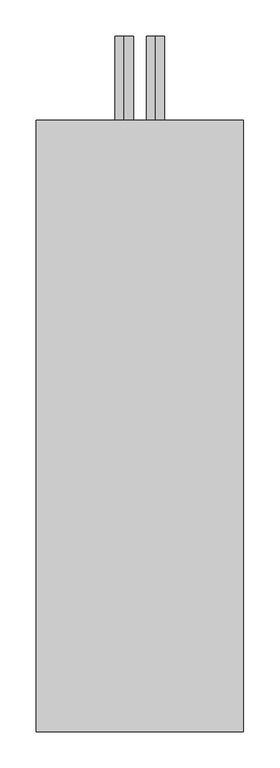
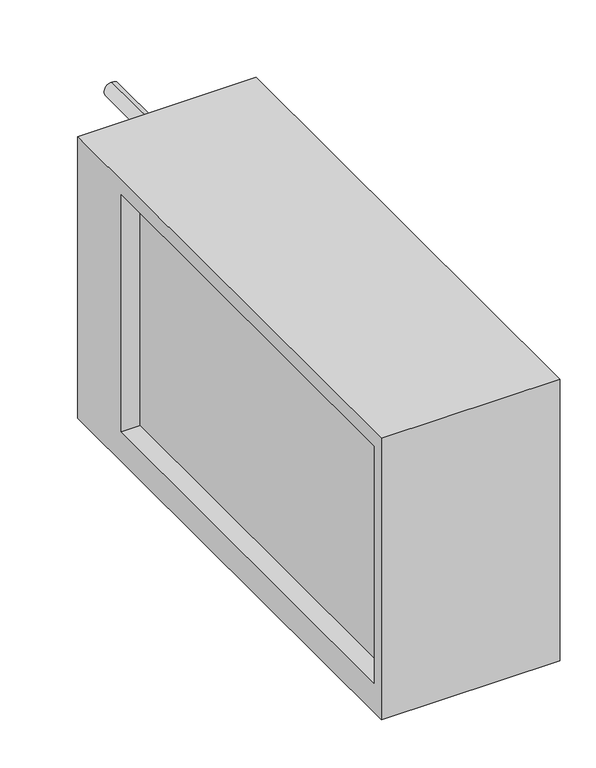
"""IFC4 building model written with IfcOpenShell, lengths in millimetres: proxy geometry, СВ_ВоздухоохладительВодяной_КанальныйПрямоугольный_200-1000_SPC-W : SPC-W-700x400-L."""

import ifcopenshell
import ifcopenshell.guid

model = None  # the IFC model being written
_history = None  # IfcOwnerHistory: only IFC2X3 demands one
_inside = {}  # id of a spatial element -> (the spatial element, [elements in it])
_under = {}  # id of a project, library or spatial element -> (it, [spatial elements below it])
_declared = {}  # id of a project -> (the project, [libraries it declares])
_typed = {}  # id of a type object -> (the type object, [elements of that type])
_made_of = {}  # id of a material, layer set ... -> (it, [elements and type objects made of it])


def new_model(schema):
    """Start an empty IFC model of exactly this schema.

    Asked for "IFC4X3", IfcOpenShell would pick the latest addendum, in which some entities
    have other attributes; the version numbers below select the first issue.
    IFC2X3 requires an IfcOwnerHistory on every rooted entity: one is made here for all.
    """
    global model, _history
    if schema == "IFC4X3":
        model = ifcopenshell.file(schema_version=(4, 3, 0, 0))
    else:
        model = ifcopenshell.file(schema=schema)
    _inside.clear()
    _under.clear()
    _declared.clear()
    _typed.clear()
    _made_of.clear()
    _history = None
    if model.schema == "IFC2X3":
        org = make("IfcOrganization", Name="unknown")
        user = make(
            "IfcPersonAndOrganization",
            ThePerson=make("IfcPerson", FamilyName="unknown"),
            TheOrganization=org,
        )
        app = make(
            "IfcApplication",
            ApplicationDeveloper=org,
            Version="unknown",
            ApplicationFullName="unknown",
            ApplicationIdentifier="unknown",
        )
        _history = make(
            "IfcOwnerHistory",
            OwningUser=user,
            OwningApplication=app,
            ChangeAction="ADDED",
            CreationDate=0,
        )
    return model


def make(cls, **values):
    """One entity of the class cls with the attributes given. An attribute that is None is left unset."""
    return model.create_entity(
        cls, **{name: value for name, value in values.items() if value is not None}
    )


def rooted(cls, **values):
    """An entity with a GlobalId (a new one), such as an element, a storey or a relation."""
    return make(cls, GlobalId=ifcopenshell.guid.new(), OwnerHistory=_history, **values)


def si_unit(unit_type, name, prefix=None):
    """IfcSIUnit, for example si_unit("LENGTHUNIT", "METRE", prefix="MILLI")."""
    return make("IfcSIUnit", UnitType=unit_type, Prefix=prefix, Name=name)


def assignment(units):
    """IfcUnitAssignment: the units of a project."""
    return None if units is None else make("IfcUnitAssignment", Units=units)


def point(xyz):
    """IfcCartesianPoint."""
    return None if xyz is None else make("IfcCartesianPoint", Coordinates=xyz)


def direction(xyz):
    """IfcDirection."""
    return None if xyz is None else make("IfcDirection", DirectionRatios=xyz)


def frame(location, z_axis=None, x_axis=None):
    """IfcAxis2Placement3D, a coordinate frame: its origin and axes. An axis left out is left unset."""
    return make(
        "IfcAxis2Placement3D",
        Location=point(location),
        Axis=direction(z_axis),
        RefDirection=direction(x_axis),
    )


def frame_2d(location, x_axis=None):
    """IfcAxis2Placement2D, a coordinate frame in the plane: its origin and x axis."""
    return make(
        "IfcAxis2Placement2D", Location=point(location), RefDirection=direction(x_axis)
    )


def origin():
    """The frame at (0, 0, 0) with its axes left unset."""
    return frame((0.0, 0.0, 0.0))


def place(relative_to, where):
    """IfcLocalPlacement: puts the frame where relative to a parent placement (None: the world)."""
    return make(
        "IfcLocalPlacement", PlacementRelTo=relative_to, RelativePlacement=where
    )


def context(
    kind, dimensions, precision=None, world=None, true_north=None, identifier=None
):
    """IfcGeometricRepresentationContext, for example the 3D "Model" context."""
    return make(
        "IfcGeometricRepresentationContext",
        ContextIdentifier=identifier,
        ContextType=kind,
        CoordinateSpaceDimension=dimensions,
        Precision=precision,
        WorldCoordinateSystem=world,
        TrueNorth=true_north,
    )


def project(units=None, contexts=None):
    """IfcProject with its units and contexts."""
    return rooted(
        "IfcProject",
        Name="project",
        RepresentationContexts=contexts,
        UnitsInContext=assignment(units),
    )


def spatial(cls, under=None, at=None, **own):
    """A site, building, storey or space (cls), placed at a placement, below another one or the project."""
    s = rooted(cls, ObjectPlacement=at, **own)
    if under is not None:
        _under.setdefault(under.id(), (under, []))[1].append(s)
    return s


def polyline(points):
    """IfcPolyline through the points."""
    return make("IfcPolyline", Points=[point(p) for p in points])


def circle_curve(where, radius):
    """IfcCircle in the frame where."""
    return make("IfcCircle", Position=where, Radius=radius)


def trimmed(basis, trim1, trim2, sense, master):
    """IfcTrimmedCurve: the piece of a basis curve between two trims."""
    return make(
        "IfcTrimmedCurve",
        BasisCurve=basis,
        Trim1=trim1,
        Trim2=trim2,
        SenseAgreement=sense,
        MasterRepresentation=master,
    )


def segment(curve, same_sense, transition):
    """IfcCompositeCurveSegment."""
    return make(
        "IfcCompositeCurveSegment",
        Transition=transition,
        SameSense=same_sense,
        ParentCurve=curve,
    )


def composite_curve(segments, self_intersect=None):
    """IfcCompositeCurve: segments joined end to end."""
    return make("IfcCompositeCurve", Segments=segments, SelfIntersect=self_intersect)


def outline(outer, holes=None, kind="AREA"):
    """IfcArbitraryClosedProfileDef: a profile drawn as a closed curve; with holes, ...WithVoids."""
    if holes is None:
        return make("IfcArbitraryClosedProfileDef", ProfileType=kind, OuterCurve=outer)
    return make(
        "IfcArbitraryProfileDefWithVoids",
        ProfileType=kind,
        OuterCurve=outer,
        InnerCurves=holes,
    )


def extrude(swept, where, along, depth):
    """IfcExtrudedAreaSolid: the profile swept, set in the frame where, extruded along a direction by depth."""
    return make(
        "IfcExtrudedAreaSolid",
        SweptArea=swept,
        Position=where,
        ExtrudedDirection=direction(along),
        Depth=depth,
    )


def shape(context_of_items, identifier, shape_type, items):
    """IfcShapeRepresentation: the items that make up one representation, for example the "Body"."""
    return make(
        "IfcShapeRepresentation",
        ContextOfItems=context_of_items,
        RepresentationIdentifier=identifier,
        RepresentationType=shape_type,
        Items=items,
    )


def source(mapping_origin, context_of_items, identifier, shape_type, items):
    """IfcRepresentationMap: a shape defined once, which mapped items show again and again."""
    return make(
        "IfcRepresentationMap",
        MappingOrigin=mapping_origin,
        MappedRepresentation=shape(context_of_items, identifier, shape_type, items),
    )


def transform(
    local_origin,
    x_axis=None,
    y_axis=None,
    z_axis=None,
    scale=None,
    scale2=None,
    scale3=None,
    uniform=True,
):
    """IfcCartesianTransformationOperator3D, or its non-uniform kind. x_axis, y_axis, z_axis: its Axis1, 2, 3."""
    if uniform:
        return make(
            "IfcCartesianTransformationOperator3D",
            Axis1=direction(x_axis),
            Axis2=direction(y_axis),
            LocalOrigin=point(local_origin),
            Scale=scale,
            Axis3=direction(z_axis),
        )
    return make(
        "IfcCartesianTransformationOperator3DnonUniform",
        Axis1=direction(x_axis),
        Axis2=direction(y_axis),
        LocalOrigin=point(local_origin),
        Scale=scale,
        Axis3=direction(z_axis),
        Scale2=scale2,
        Scale3=scale3,
    )


def mapped(mapping_source, mapping_target):
    """IfcMappedItem: shows the shape of a source again, moved by a transform."""
    return make(
        "IfcMappedItem", MappingSource=mapping_source, MappingTarget=mapping_target
    )


def made_of(thing, what):
    """Note that an element or type object is made of a material, layer set ...; save() writes the relation."""
    if what is not None:
        _made_of.setdefault(what.id(), (what, []))[1].append(thing)
    return thing


def element(
    cls,
    number,
    at=None,
    inside=None,
    cuts=None,
    type_object=None,
    material=None,
    context=None,
    identifier="Body",
    shape_type=None,
    held_by="IfcProductDefinitionShape",
    body=None,
    shapes=None,
    **own,
):
    """One element of the class cls, such as IfcWall. Its Tag is "e" and its number.

    at: its placement. inside: the storey or other place that contains it. cuts: it is an
    opening in that element (IfcRelVoidsElement). A single representation is given by context,
    identifier, shape_type and body (its items); several are given by shapes. held_by: the class
    of the entity that holds the representations. save() writes the other relations.
    """
    e = rooted(cls, Tag="e%d" % number, ObjectPlacement=at, **own)
    if body is not None:
        shapes = [shape(context, identifier, shape_type, body)]
    if shapes is not None:
        e.Representation = make(held_by, Representations=shapes)
    if inside is not None:
        _inside.setdefault(inside.id(), (inside, []))[1].append(e)
    if cuts is not None:
        rooted(
            "IfcRelVoidsElement", RelatingBuildingElement=cuts, RelatedOpeningElement=e
        )
    if type_object is not None:
        _typed.setdefault(type_object.id(), (type_object, []))[1].append(e)
    return made_of(e, material)


def aggregate(whole, parts):
    """IfcRelAggregates: a whole, such as a stair, and the parts it consists of."""
    return rooted("IfcRelAggregates", RelatingObject=whole, RelatedObjects=parts)


def save(model, path):
    """Write the relations noted so far, then the file.

    IfcRelAggregates (storeys below a building ...), IfcRelContainedInSpatialStructure (elements
    in a storey), IfcRelDefinesByType, IfcRelAssociatesMaterial and IfcRelDeclares: one each for
    every whole, place, type object, material and project.
    """
    for whole, parts in _under.values():
        aggregate(whole, parts)
    for where, things in _inside.values():
        rooted(
            "IfcRelContainedInSpatialStructure",
            RelatedElements=things,
            RelatingStructure=where,
        )
    for kind, things in _typed.values():
        rooted("IfcRelDefinesByType", RelatedObjects=things, RelatingType=kind)
    for what, things in _made_of.values():
        rooted("IfcRelAssociatesMaterial", RelatedObjects=things, RelatingMaterial=what)
    for by, libraries in _declared.values():
        rooted("IfcRelDeclares", RelatingContext=by, RelatedDefinitions=libraries)
    model.write(path)


def mechanical_equipment_55b060d5(model_context):
    return source(origin(), model_context, "Body", "SweptSolid", [
        extrude(outline(polyline([(-370.0, -250.0), (-370.0, 225.0), (470.0, 225.0), (470.0, -250.0), (-370.0, -250.0)]), holes=[polyline([(-350.0, 200.0), (-350.0, -200.0), (350.0, -200.0), (350.0, 200.0), (-350.0, 200.0)])]), frame((-142.5, 0.0, 0.0), z_axis=(1.0, 0.0, 0.0), x_axis=(0.0, 1.0, 0.0)), (0.0, 0.0, 1.0), 285.0),
        extrude(outline(composite_curve([segment(trimmed(circle_curve(frame_2d((-192.5, 21.5)), 12.5), [point((-205.0, 21.5))], [point((-180.0, 21.5))], False, "CARTESIAN"), True, "CONTINUOUS"), segment(trimmed(circle_curve(frame_2d((-192.5, 21.5)), 12.5), [point((-180.0, 21.5))], [point((-205.0, 21.5))], False, "CARTESIAN"), True, "CONTINUOUS")], self_intersect=False)), frame((0.0, 470.0, 0.0), z_axis=(0.0, 1.0, 0.0), x_axis=(0.0, 0.0, 1.0)), (0.0, 0.0, 1.0), 115.0),
        extrude(outline(composite_curve([segment(trimmed(circle_curve(frame_2d((192.5, -21.5)), 12.5), [point((180.0, -21.5))], [point((205.0, -21.5))], False, "CARTESIAN"), True, "CONTINUOUS"), segment(trimmed(circle_curve(frame_2d((192.5, -21.5)), 12.5), [point((205.0, -21.5))], [point((180.0, -21.5))], False, "CARTESIAN"), True, "CONTINUOUS")], self_intersect=False)), frame((0.0, 470.0, 0.0), z_axis=(0.0, 1.0, 0.0), x_axis=(0.0, 0.0, 1.0)), (0.0, 0.0, 1.0), 115.0),
        extrude(outline(composite_curve([segment(trimmed(circle_curve(frame_2d((0.0, 430.0)), 11.0), [point((-11.0, 430.0))], [point((11.0, 430.0))], False, "CARTESIAN"), True, "CONTINUOUS"), segment(trimmed(circle_curve(frame_2d((0.0, 430.0)), 11.0), [point((11.0, 430.0))], [point((-11.0, 430.0))], False, "CARTESIAN"), True, "CONTINUOUS")], self_intersect=False)), frame((0.0, 0.0, -270.0), z_axis=(0.0, 0.0, 1.0), x_axis=(1.0, 0.0, 0.0)), (0.0, 0.0, 1.0), 20.0),
        extrude(outline(polyline([(112.5, 350.0), (112.5, -350.0), (-112.5, -350.0), (-112.5, 350.0), (112.5, 350.0)])), frame((0.0, 0.0, -200.0), z_axis=(0.0, 0.0, 1.0), x_axis=(1.0, 0.0, 0.0)), (0.0, 0.0, 1.0), 400.0),
    ])


if __name__ == "__main__":
    model = new_model("IFC4")
    model_context = context("Model", 3, world=origin())
    ifc_project = project(units=[si_unit("LENGTHUNIT", "METRE", prefix="MILLI")], contexts=[model_context])
    site = spatial("IfcSite", under=ifc_project)
    building = spatial("IfcBuilding", under=site)
    placement = place(None, origin())
    mechanical_equipment_shape = mechanical_equipment_55b060d5(model_context)
    element("IfcBuildingElementProxy", 1, Name="СВ_ВоздухоохладительВодяной_КанальныйПрямоугольный_200-1000_SPC-W : SPC-W-700x400-L", ObjectType="СВ_ВоздухоохладительВодяной_КанальныйПрямоугольный_200-1000_SPC-W : SPC-W-700x400-L", at=placement, inside=building, context=model_context, shape_type="MappedRepresentation", body=[
        mapped(mechanical_equipment_shape, transform((0.0, 0.0, 0.0), x_axis=(1.0, 0.0, 0.0), y_axis=(0.0, 1.0, 0.0), z_axis=(0.0, 0.0, 1.0))),
    ])
    save(model, "model.ifc")
